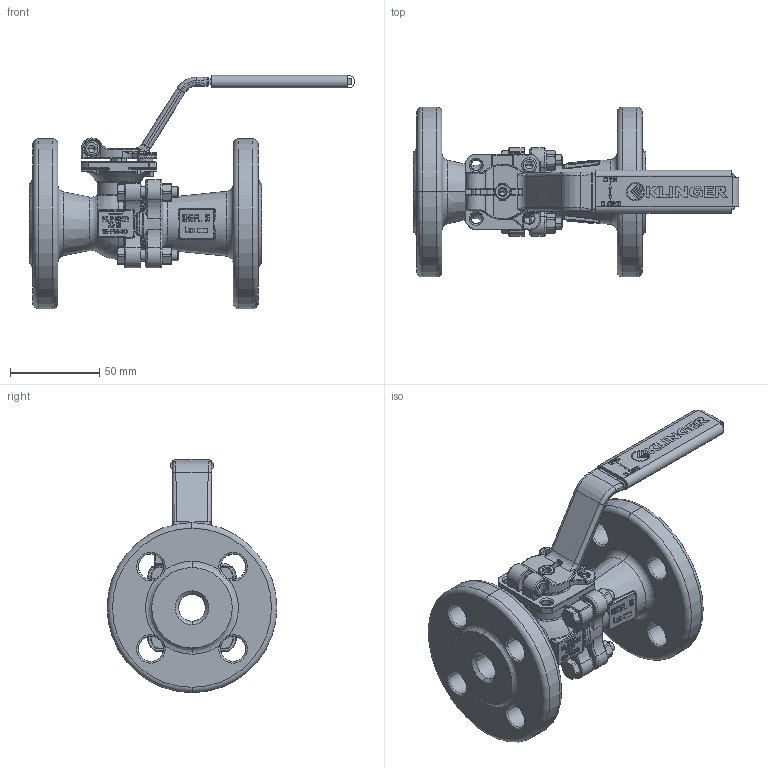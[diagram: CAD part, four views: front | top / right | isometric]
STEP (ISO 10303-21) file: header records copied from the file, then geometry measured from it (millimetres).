
FILE_DESCRIPTION((''),'2;1');
FILE_NAME('KHEFK015VFL015P040PKK','2015-08-10T',('mahrhauserh'),('RAND'),'PRO/ENGINEER BY PARAMETRIC TECHNOLOGY CORPORATION, 2013410','PRO/ENGINEER BY PARAMETRIC TECHNOLOGY CORPORATION, 2013410','');
FILE_SCHEMA(('CONFIG_CONTROL_DESIGN'));
Products named in the file (1): KHEFK015VFL015P040PKK
Bounding box: 182 x 95 x 130.55 mm (x, y, z)
Volume: 310471.9 mm3; surface area: 88277.1 mm2
Topology: 1 solids, 2 shells, 3138 faces, 8106 edges, 5069 vertices
Faces by surface type: plane 1760, cylinder 484, bspline 334, torus 312, cone 202, sphere 46
Entity records: 126599 total; most frequent: CARTESIAN_POINT 51756, ORIENTED_EDGE 16184, DIRECTION 14803, EDGE_CURVE 8092, VECTOR 5115, LINE 5115, VERTEX_POINT 5069, AXIS2_PLACEMENT_3D 4844
